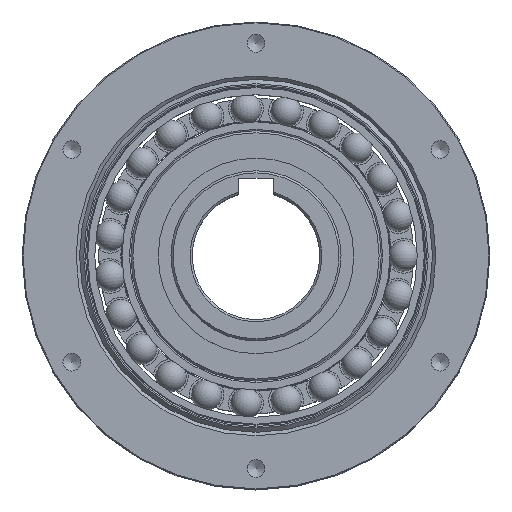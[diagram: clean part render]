
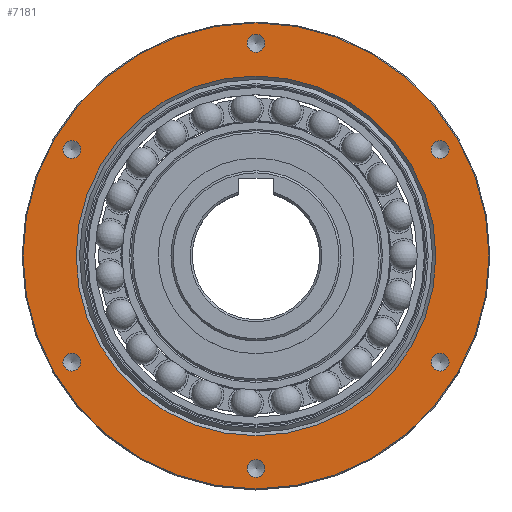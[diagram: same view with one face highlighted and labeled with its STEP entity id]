
A CAD part, top view. The second image highlights one B-rep face of the part: STEP entity #7181.
In plain terms, the highlighted planar face has unit normal (0, 0, 1).
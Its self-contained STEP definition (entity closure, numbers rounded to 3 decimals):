
#10 = CIRCLE ( 'NONE', #5977, 2.1 ) ;
#157 = AXIS2_PLACEMENT_3D ( 'NONE', #8999, #6707, #539 ) ;
#176 = EDGE_CURVE ( 'NONE', #545, #545, #3152, .T. ) ;
#342 = EDGE_LOOP ( 'NONE', ( #1527 ) ) ;
#539 = DIRECTION ( 'NONE',  ( -1., 0., 0. ) ) ;
#545 = VERTEX_POINT ( 'NONE', #4002 ) ;
#757 = DIRECTION ( 'NONE',  ( 0., 0., 1. ) ) ;
#882 = CIRCLE ( 'NONE', #9934, 2.1 ) ;
#1061 = CARTESIAN_POINT ( 'NONE',  ( 0., -50., 18.5 ) ) ;
#1123 = EDGE_LOOP ( 'NONE', ( #2587 ) ) ;
#1192 = CIRCLE ( 'NONE', #8717, 2.1 ) ;
#1223 = AXIS2_PLACEMENT_3D ( 'NONE', #1061, #6476, #1830 ) ;
#1471 = DIRECTION ( 'NONE',  ( 0., 0., 1. ) ) ;
#1505 = DIRECTION ( 'NONE',  ( 0., 0., 1. ) ) ;
#1527 = ORIENTED_EDGE ( 'NONE', *, *, #9731, .F. ) ;
#1783 = EDGE_LOOP ( 'NONE', ( #8808 ) ) ;
#1830 = DIRECTION ( 'NONE',  ( 1., 0., 0. ) ) ;
#1865 = VERTEX_POINT ( 'NONE', #2834 ) ;
#2004 = CARTESIAN_POINT ( 'NONE',  ( -54.8, 0., 18.5 ) ) ;
#2256 = AXIS2_PLACEMENT_3D ( 'NONE', #3389, #8780, #4188 ) ;
#2564 = EDGE_CURVE ( 'NONE', #3429, #3429, #6585, .T. ) ;
#2587 = ORIENTED_EDGE ( 'NONE', *, *, #6740, .T. ) ;
#2834 = CARTESIAN_POINT ( 'NONE',  ( -41.201, 25., 18.5 ) ) ;
#2841 = DIRECTION ( 'NONE',  ( 0., 0., 1. ) ) ;
#3095 = ORIENTED_EDGE ( 'NONE', *, *, #2564, .T. ) ;
#3152 = CIRCLE ( 'NONE', #7880, 2.1 ) ;
#3389 = CARTESIAN_POINT ( 'NONE',  ( 0., 0., 18.5 ) ) ;
#3429 = VERTEX_POINT ( 'NONE', #4071 ) ;
#4002 = CARTESIAN_POINT ( 'NONE',  ( 2.1, 50., 18.5 ) ) ;
#4071 = CARTESIAN_POINT ( 'NONE',  ( -42.3, 0., 18.5 ) ) ;
#4188 = DIRECTION ( 'NONE',  ( -1., 0., 0. ) ) ;
#4211 = EDGE_LOOP ( 'NONE', ( #6236 ) ) ;
#4278 = CARTESIAN_POINT ( 'NONE',  ( 43.301, 25., 18.5 ) ) ;
#4711 = EDGE_CURVE ( 'NONE', #8118, #8118, #882, .T. ) ;
#5039 = DIRECTION ( 'NONE',  ( 1., 0., 0. ) ) ;
#5068 = EDGE_LOOP ( 'NONE', ( #7501 ) ) ;
#5401 = VERTEX_POINT ( 'NONE', #5881 ) ;
#5406 = CARTESIAN_POINT ( 'NONE',  ( 0., 0., 18.5 ) ) ;
#5881 = CARTESIAN_POINT ( 'NONE',  ( 45.401, 25., 18.5 ) ) ;
#5942 = AXIS2_PLACEMENT_3D ( 'NONE', #5406, #757, #6183 ) ;
#5977 = AXIS2_PLACEMENT_3D ( 'NONE', #6159, #1505, #6919 ) ;
#6122 = CARTESIAN_POINT ( 'NONE',  ( -43.301, -25., 18.5 ) ) ;
#6159 = CARTESIAN_POINT ( 'NONE',  ( 43.301, -25., 18.5 ) ) ;
#6183 = DIRECTION ( 'NONE',  ( -1., 0., 0. ) ) ;
#6236 = ORIENTED_EDGE ( 'NONE', *, *, #8805, .F. ) ;
#6476 = DIRECTION ( 'NONE',  ( 0., 0., 1. ) ) ;
#6539 = CARTESIAN_POINT ( 'NONE',  ( 0., 50., 18.5 ) ) ;
#6585 = CIRCLE ( 'NONE', #2256, 42.3 ) ;
#6608 = EDGE_CURVE ( 'NONE', #5401, #5401, #9841, .T. ) ;
#6668 = DIRECTION ( 'NONE',  ( 0., 0., 1. ) ) ;
#6706 = FACE_OUTER_BOUND ( 'NONE', #1123, .T. ) ;
#6707 = DIRECTION ( 'NONE',  ( 0., 0., -1. ) ) ;
#6718 = FACE_BOUND ( 'NONE', #9213, .T. ) ;
#6740 = EDGE_CURVE ( 'NONE', #9227, #9227, #8963, .T. ) ;
#6765 = ORIENTED_EDGE ( 'NONE', *, *, #176, .F. ) ;
#6794 = DIRECTION ( 'NONE',  ( 1., 0., 0. ) ) ;
#6803 = FACE_BOUND ( 'NONE', #7930, .T. ) ;
#6816 = FACE_BOUND ( 'NONE', #1783, .T. ) ;
#6826 = FACE_BOUND ( 'NONE', #5068, .T. ) ;
#6884 = DIRECTION ( 'NONE',  ( 1., 0., 0. ) ) ;
#6919 = DIRECTION ( 'NONE',  ( 1., 0., 0. ) ) ;
#6921 = FACE_BOUND ( 'NONE', #7113, .T. ) ;
#6941 = FACE_BOUND ( 'NONE', #4211, .T. ) ;
#7046 = FACE_BOUND ( 'NONE', #342, .T. ) ;
#7113 = EDGE_LOOP ( 'NONE', ( #9358 ) ) ;
#7124 = CIRCLE ( 'NONE', #1223, 2.1 ) ;
#7181 = ADVANCED_FACE ( 'NONE', ( #7046, #6816, #6941, #6826, #6921, #6803, #6718, #6706 ), #9794, .F. ) ;
#7477 = CARTESIAN_POINT ( 'NONE',  ( -43.301, 25., 18.5 ) ) ;
#7501 = ORIENTED_EDGE ( 'NONE', *, *, #9900, .F. ) ;
#7880 = AXIS2_PLACEMENT_3D ( 'NONE', #6539, #6668, #6794 ) ;
#7930 = EDGE_LOOP ( 'NONE', ( #6765 ) ) ;
#8118 = VERTEX_POINT ( 'NONE', #9674 ) ;
#8229 = CARTESIAN_POINT ( 'NONE',  ( 45.401, -25., 18.5 ) ) ;
#8235 = DIRECTION ( 'NONE',  ( 1., 0., 0. ) ) ;
#8244 = VERTEX_POINT ( 'NONE', #9772 ) ;
#8717 = AXIS2_PLACEMENT_3D ( 'NONE', #7477, #2841, #8235 ) ;
#8780 = DIRECTION ( 'NONE',  ( 0., 0., -1. ) ) ;
#8805 = EDGE_CURVE ( 'NONE', #8244, #8244, #7124, .T. ) ;
#8808 = ORIENTED_EDGE ( 'NONE', *, *, #4711, .F. ) ;
#8963 = CIRCLE ( 'NONE', #5942, 54.8 ) ;
#8999 = CARTESIAN_POINT ( 'NONE',  ( 0., 55., 18.5 ) ) ;
#9213 = EDGE_LOOP ( 'NONE', ( #3095 ) ) ;
#9227 = VERTEX_POINT ( 'NONE', #2004 ) ;
#9358 = ORIENTED_EDGE ( 'NONE', *, *, #6608, .F. ) ;
#9660 = DIRECTION ( 'NONE',  ( 0., 0., 1. ) ) ;
#9674 = CARTESIAN_POINT ( 'NONE',  ( -41.201, -25., 18.5 ) ) ;
#9725 = AXIS2_PLACEMENT_3D ( 'NONE', #4278, #9660, #5039 ) ;
#9731 = EDGE_CURVE ( 'NONE', #1865, #1865, #1192, .T. ) ;
#9772 = CARTESIAN_POINT ( 'NONE',  ( 2.1, -50., 18.5 ) ) ;
#9794 = PLANE ( 'NONE',  #157 ) ;
#9841 = CIRCLE ( 'NONE', #9725, 2.1 ) ;
#9844 = VERTEX_POINT ( 'NONE', #8229 ) ;
#9900 = EDGE_CURVE ( 'NONE', #9844, #9844, #10, .T. ) ;
#9934 = AXIS2_PLACEMENT_3D ( 'NONE', #6122, #1471, #6884 ) ;
